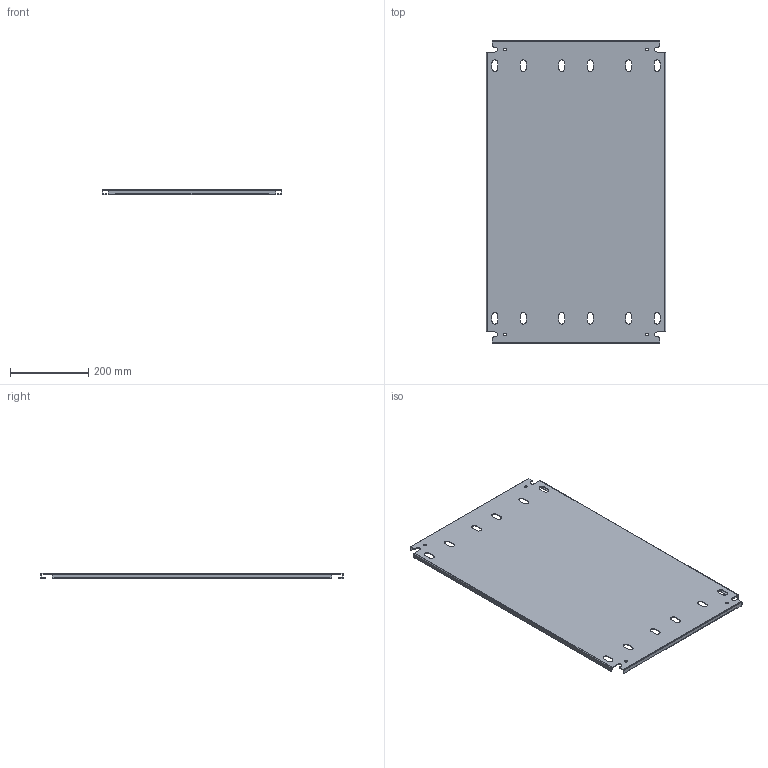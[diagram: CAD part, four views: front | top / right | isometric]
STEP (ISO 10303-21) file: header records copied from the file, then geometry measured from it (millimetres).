
FILE_DESCRIPTION(/* description */ ('1412BTCU 18.125" x 28" Right Inner Panel'),/* implementation_level */ '2;1');
FILE_NAME(/* name */ 'C:\Vault_Workspace\Inventor_Dwg\BoxCad\Result\1412BTCU07603\e-mail\3D\1412BTCU07603IP2.stp',/* time_stamp */ '2022-09-08T14:23:30-04:00',/* author */ ('BoxCad'),/* organization */ (''),/* preprocessor_version */ 'ST-DEVELOPER v18.1',/* originating_system */ 'Autodesk Inventor 2020',/* authorisation */ '');
FILE_SCHEMA (('AUTOMOTIVE_DESIGN { 1 0 10303 214 3 1 1 }'));
Length unit declared in the file: inch
Products named in the file (2): 1412BTCU07603IP2; 1412BTCU07603IP2-P
Assembly tree (1 placements, depth 2):
  1412BTCU07603IP2
    1412BTCU07603IP2-P
Bounding box: 460.38 x 774.7 x 13 mm (x, y, z)
Volume: 676268.9 mm3; surface area: 789499 mm2
Topology: 1 solids, 1 shells, 158 faces, 468 edges, 312 vertices
Faces by surface type: plane 90, cylinder 68
Full cylindrical faces by diameter (mm): 7.366 x4
Entity records: 5441 total; most frequent: CARTESIAN_POINT 941, ORIENTED_EDGE 936, DIRECTION 926, EDGE_CURVE 468, LINE 332, VECTOR 332, VERTEX_POINT 312, AXIS2_PLACEMENT_3D 297
